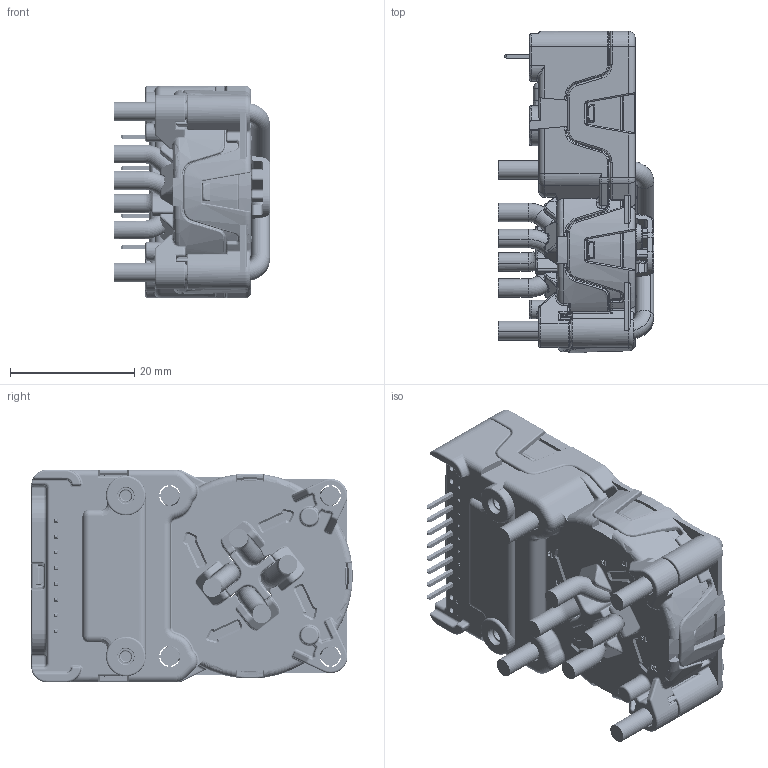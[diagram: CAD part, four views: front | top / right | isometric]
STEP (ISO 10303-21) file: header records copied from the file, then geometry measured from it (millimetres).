
FILE_DESCRIPTION(('Creo Elements/Direct Modeling STEP Export'),'2;1');
FILE_NAME('CDT 0_3_S4 family.stp','2025-05-09T13:08:21',(''),(''),'Creo Elements/Direct Modeling STEP processor for AP214 (Solid Model)','Creo Elements/Direct Modeling 20.3D 14-Nov-2022 (C) Parametric Technology GmbH','');
FILE_SCHEMA(('AUTOMOTIVE_DESIGN { 1 0 10303 214 1 1 1 1 }'));
Length unit declared in the file: millimetre
Products named in the file (13): TERMINAL; JUMPER; Jumper1.1.1; Jumper1.2.1; Jumper1.3.1; Jumper1.4; INSULATOR; 92.xx.xx.xxx.0-CT CASE.4.1; 92.xx.xx.xxx.0-FLUXGATE_CASE.1; CAD CUSTOMER
Assembly tree (12 placements, depth 3):
  CAD CUSTOMER
    92.xx.xx.xxx.0-FLUXGATE_CASE.1
    92.xx.xx.xxx.0-CT CASE.4.1
    INSULATOR
    Jumper1.4
      JUMPER
    Jumper1.3.1
      JUMPER
    Jumper1.2.1
      JUMPER
    Jumper1.1.1
      JUMPER
    TERMINAL
Bounding box: 25 x 51.69 x 34.2 mm (x, y, z)
Volume: 13664.4 mm3; surface area: 21583.3 mm2
Topology: 8 solids, 8 shells, 5433 faces, 14233 edges, 8731 vertices
Faces by surface type: plane 2357, cylinder 1451, bspline 709, torus 637, cone 165, sphere 103, extrusion 11
Entity records: 294977 total; most frequent: CARTESIAN_POINT 166888, ORIENTED_EDGE 28174, DIRECTION 23331, EDGE_CURVE 14087, VERTEX_POINT 8731, AXIS2_PLACEMENT_3D 7869, VECTOR 7593, LINE 7582
